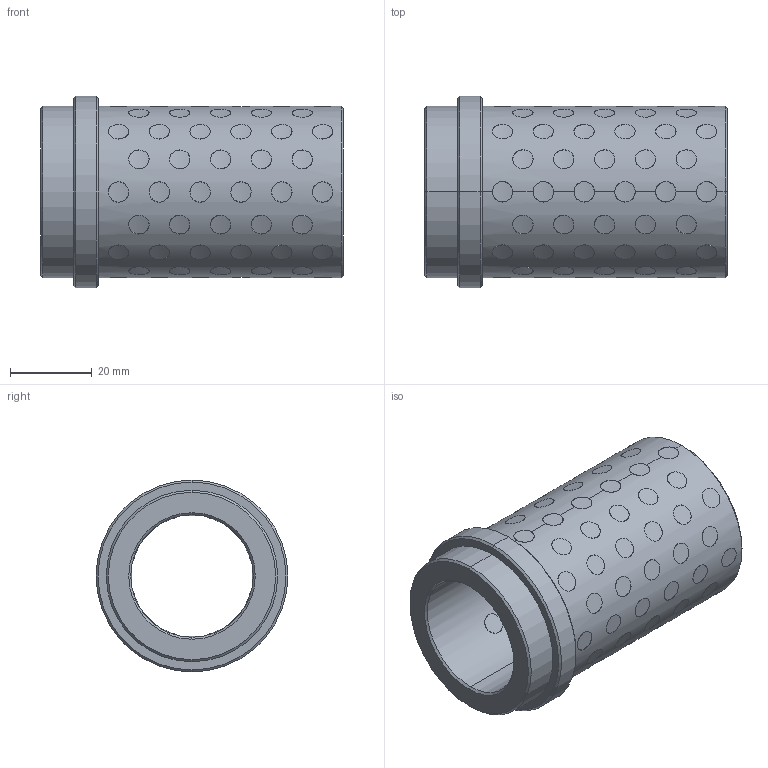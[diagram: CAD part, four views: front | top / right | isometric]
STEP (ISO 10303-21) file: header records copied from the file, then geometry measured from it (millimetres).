
FILE_DESCRIPTION((''),'2;1');
FILE_NAME('G31230066','2017-12-30T',('MANU'),(''),'PRO/ENGINEER BY PARAMETRIC TECHNOLOGY CORPORATION, 2012130','PRO/ENGINEER BY PARAMETRIC TECHNOLOGY CORPORATION, 2012130','');
FILE_SCHEMA(('CONFIG_CONTROL_DESIGN'));
Length unit declared in the file: millimetre
Products named in the file (1): G31230066
Bounding box: 74 x 47 x 47 mm (x, y, z)
Volume: 52011.7 mm3; surface area: 35186.7 mm2
Topology: 89 solids, 89 shells, 552 faces, 1176 edges, 780 vertices
Faces by surface type: cylinder 536, cone 12, plane 4
Entity records: 26742 total; most frequent: CARTESIAN_POINT 15984, ORIENTED_EDGE 2352, DIRECTION 1556, EDGE_CURVE 1176, VERTEX_POINT 780, B_SPLINE_CURVE_WITH_KNOTS 752, EDGE_LOOP 708, AXIS2_PLACEMENT_3D 580
